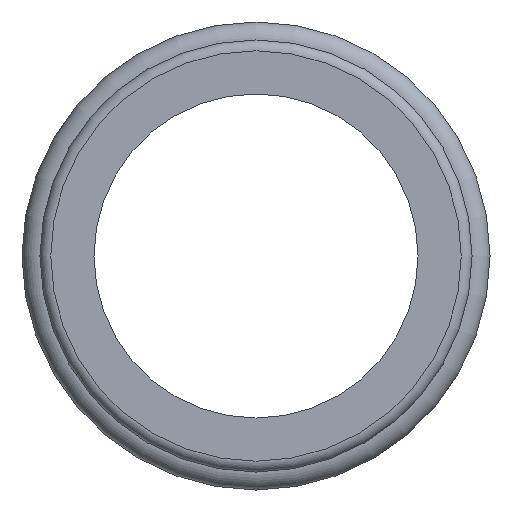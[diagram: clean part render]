
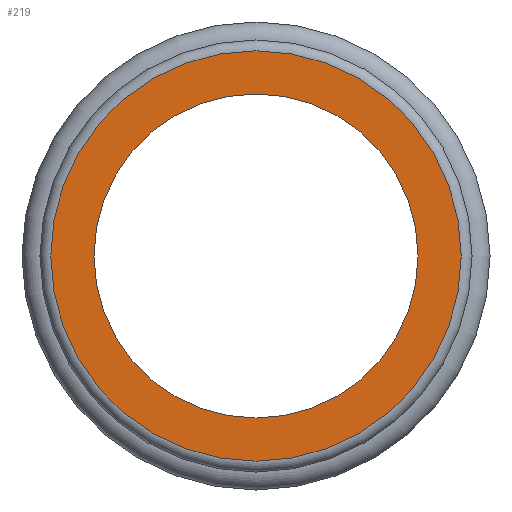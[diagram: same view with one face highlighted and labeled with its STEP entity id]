
A CAD part, left-side view. The second image highlights one B-rep face of the part: STEP entity #219.
In plain terms, the highlighted planar face has unit normal (-1, 0, 0).
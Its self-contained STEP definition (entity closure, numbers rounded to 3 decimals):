
#165=CARTESIAN_POINT('',(-39.0,0.,5.7));
#166=VERTEX_POINT('',#165);
#167=CARTESIAN_POINT('',(-39.0,0.0,0.0));
#168=DIRECTION('',(1.0,0.0,0.0));
#169=DIRECTION('',(0.0,0.0,-1.0));
#170=AXIS2_PLACEMENT_3D('',#167,#168,#169);
#171=CIRCLE('',#170,5.7);
#172=EDGE_CURVE('',#166,#166,#171,.T.);
#200=CARTESIAN_POINT('',(-39.0,0.0,0.0));
#201=DIRECTION('',(1.0,0.0,0.0));
#202=DIRECTION('',(0.0,0.0,-1.0));
#203=AXIS2_PLACEMENT_3D('',#200,#201,#202);
#204=PLANE('',#203);
#205=ORIENTED_EDGE('',*,*,#172,.F.);
#206=EDGE_LOOP('',(#205));
#207=FACE_OUTER_BOUND('',#206,.T.);
#208=CARTESIAN_POINT('',(-39.0,0.,4.5));
#209=VERTEX_POINT('',#208);
#210=CARTESIAN_POINT('',(-39.0,0.0,0.0));
#211=DIRECTION('',(1.0,0.0,0.0));
#212=DIRECTION('',(0.0,0.0,-1.0));
#213=AXIS2_PLACEMENT_3D('',#210,#211,#212);
#214=CIRCLE('',#213,4.5);
#215=EDGE_CURVE('',#209,#209,#214,.T.);
#216=ORIENTED_EDGE('',*,*,#215,.T.);
#217=EDGE_LOOP('',(#216));
#218=FACE_BOUND('',#217,.T.);
#219=ADVANCED_FACE('',(#207,#218),#204,.F.);
